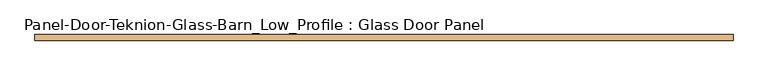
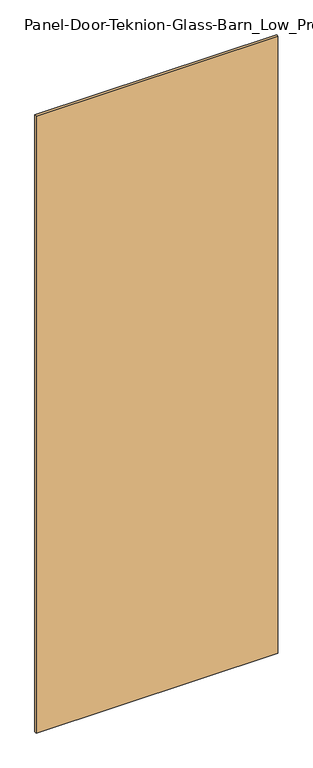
"""IFC4 building model written with IfcOpenShell, lengths in millimetres: door geometry, Panel-Door-Teknion-Glass-Barn_Low_Profile : Glass Door Panel."""

from ifc_helpers import new_model, si_unit, frame, origin, place, context, project, spatial, polyline, outline, extrude, source, transform, mapped, element, save


def panel_door_teknion_glass_barn_low_profile_glass_door_panel_56316243(model_context):
    return source(origin(), model_context, "Body", "SweptSolid", [
        extrude(outline(polyline([(525.9049212, -4.5085), (-525.9049212, -4.5085), (-525.9049212, 4.5085), (525.9049212, 4.5085), (525.9049212, -4.5085)])), frame((0.0, 0.0, 86.8426), z_axis=(0.0, 0.0, 1.0), x_axis=(1.0, 0.0, 0.0)), (0.0, 0.0, 1.0), 2838.77766),
    ])


if __name__ == "__main__":
    model = new_model("IFC4")
    model_context = context("Model", 3, world=origin())
    ifc_project = project(units=[si_unit("LENGTHUNIT", "METRE", prefix="MILLI")], contexts=[model_context])
    site = spatial("IfcSite", under=ifc_project)
    building = spatial("IfcBuilding", under=site)
    placement = place(None, origin())
    panel_door_teknion_glass_barn_low_profile_glass_door_panel_shape = panel_door_teknion_glass_barn_low_profile_glass_door_panel_56316243(model_context)
    element("IfcDoor", 1, ObjectType="Panel-Door-Teknion-Glass-Barn_Low_Profile : Glass Door Panel", at=placement, inside=building, context=model_context, shape_type="MappedRepresentation", body=[
        mapped(panel_door_teknion_glass_barn_low_profile_glass_door_panel_shape, transform((0.0, 0.0, 0.0), x_axis=(1.0, 0.0, 0.0), y_axis=(0.0, 1.0, 0.0), z_axis=(0.0, 0.0, 1.0))),
    ])
    save(model, "model.ifc")
